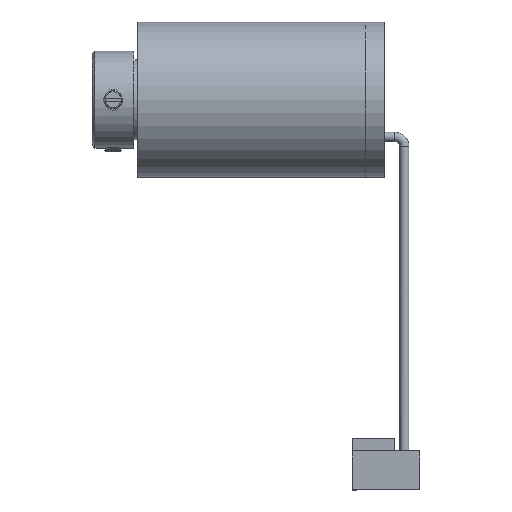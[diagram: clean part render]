
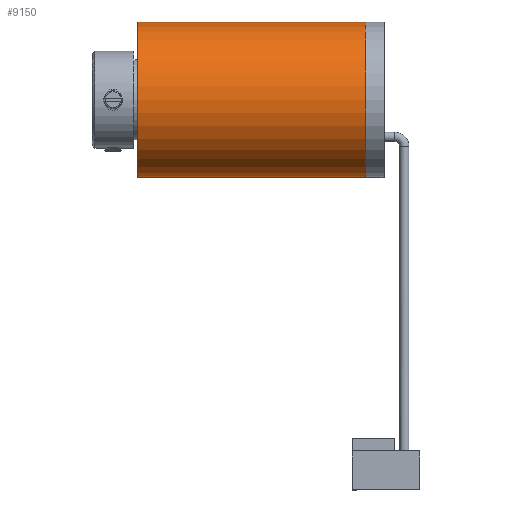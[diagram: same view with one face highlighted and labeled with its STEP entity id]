
A CAD part, top view. The second image highlights one B-rep face of the part: STEP entity #9150.
In plain terms, the highlighted cylindrical face has radius 6 mm (diameter 12 mm), a partial arc.
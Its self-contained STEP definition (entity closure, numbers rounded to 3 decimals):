
#599 = VERTEX_POINT ( 'NONE', #11717 ) ;
#2949 = VERTEX_POINT ( 'NONE', #36835 ) ;
#3701 = ORIENTED_EDGE ( 'NONE', *, *, #15667, .F. ) ;
#5744 = VERTEX_POINT ( 'NONE', #25936 ) ;
#5918 = DIRECTION ( 'NONE',  ( 0., 1., 0. ) ) ;
#6269 = DIRECTION ( 'NONE',  ( 1., 0., 0. ) ) ;
#6979 = VERTEX_POINT ( 'NONE', #9875 ) ;
#9150 = ADVANCED_FACE ( 'NONE', ( #20121 ), #34900, .T. ) ;
#9875 = CARTESIAN_POINT ( 'NONE',  ( 21.472, 2.03, 9.211 ) ) ;
#10105 = CARTESIAN_POINT ( 'NONE',  ( 3.872, 8.03, 9.211 ) ) ;
#10419 = VECTOR ( 'NONE', #40473, 1000. ) ;
#10563 = CIRCLE ( 'NONE', #24478, 6. ) ;
#11717 = CARTESIAN_POINT ( 'NONE',  ( 3.872, 14.03, 9.211 ) ) ;
#13042 = CIRCLE ( 'NONE', #28851, 6. ) ;
#13828 = DIRECTION ( 'NONE',  ( 0., 1., 0. ) ) ;
#14072 = ORIENTED_EDGE ( 'NONE', *, *, #42915, .T. ) ;
#15116 = CARTESIAN_POINT ( 'NONE',  ( 21.472, 2.03, 9.211 ) ) ;
#15667 = EDGE_CURVE ( 'NONE', #599, #5744, #22559, .T. ) ;
#20121 = FACE_OUTER_BOUND ( 'NONE', #33923, .T. ) ;
#21022 = ORIENTED_EDGE ( 'NONE', *, *, #25583, .F. ) ;
#22559 = LINE ( 'NONE', #25470, #32212 ) ;
#23875 = DIRECTION ( 'NONE',  ( 1., 0., 0. ) ) ;
#24478 = AXIS2_PLACEMENT_3D ( 'NONE', #10105, #35683, #13828 ) ;
#25470 = CARTESIAN_POINT ( 'NONE',  ( 21.472, 14.03, 9.211 ) ) ;
#25583 = EDGE_CURVE ( 'NONE', #5744, #6979, #13042, .T. ) ;
#25936 = CARTESIAN_POINT ( 'NONE',  ( 21.472, 14.03, 9.211 ) ) ;
#28413 = CARTESIAN_POINT ( 'NONE',  ( 21.472, 8.03, 9.211 ) ) ;
#28851 = AXIS2_PLACEMENT_3D ( 'NONE', #28413, #6269, #31963 ) ;
#30046 = LINE ( 'NONE', #15116, #10419 ) ;
#31963 = DIRECTION ( 'NONE',  ( 0., 1., 0. ) ) ;
#32212 = VECTOR ( 'NONE', #46804, 1000. ) ;
#33923 = EDGE_LOOP ( 'NONE', ( #14072, #44063, #21022, #3701 ) ) ;
#34900 = CYLINDRICAL_SURFACE ( 'NONE', #42699, 6. ) ;
#35683 = DIRECTION ( 'NONE',  ( 1., 0., 0. ) ) ;
#36689 = EDGE_CURVE ( 'NONE', #2949, #6979, #30046, .T. ) ;
#36835 = CARTESIAN_POINT ( 'NONE',  ( 3.872, 2.03, 9.211 ) ) ;
#38589 = CARTESIAN_POINT ( 'NONE',  ( 21.472, 8.03, 9.211 ) ) ;
#40473 = DIRECTION ( 'NONE',  ( 1., 0., 0. ) ) ;
#42699 = AXIS2_PLACEMENT_3D ( 'NONE', #38589, #23875, #5918 ) ;
#42915 = EDGE_CURVE ( 'NONE', #599, #2949, #10563, .T. ) ;
#44063 = ORIENTED_EDGE ( 'NONE', *, *, #36689, .T. ) ;
#46804 = DIRECTION ( 'NONE',  ( 1., 0., 0. ) ) ;
